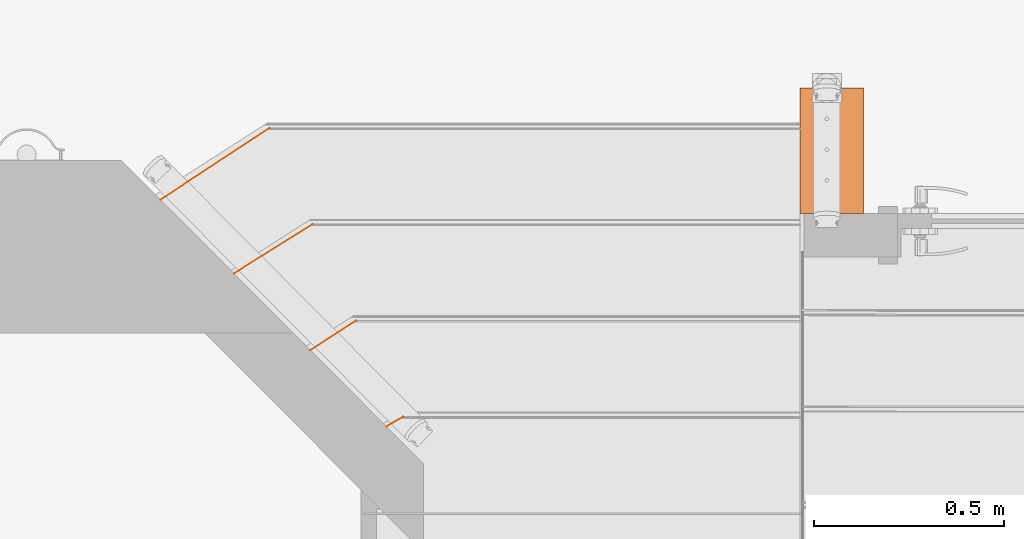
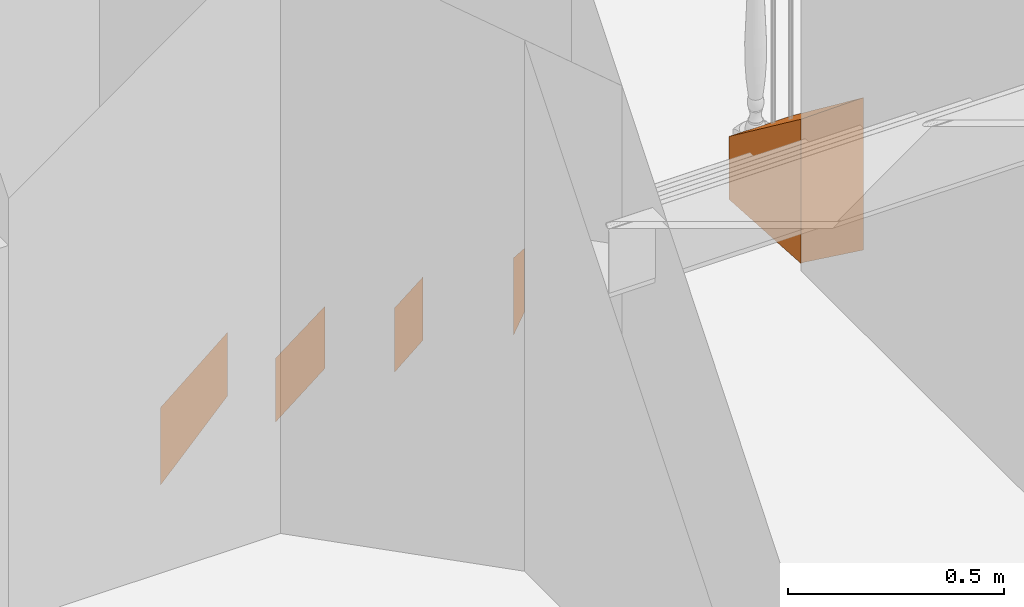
# One storey, part 22 of 24: 5 proxies.
"""IFC2X3 building model written with IfcOpenShell, lengths in inches."""

from ifc_helpers import new_model, entity, si_unit, converted_unit, derived_unit, money_unit, direction, frame, origin_with_axes, place, context, subcontext, project, spatial, open_shell, faceted_brep, surface_model, material, type_object, element, save


model = new_model("IFC2X3")

# Units and contexts
model_context = context("Model", 3, precision=0.000393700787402, world=origin_with_axes(), true_north=direction((0.0, 1.0)))
body_context = subcontext(model_context, "Body", "Model", "MODEL_VIEW")
ifc_project = project(units=[converted_unit("LENGTHUNIT", "INCH", entity("IfcPositiveLengthMeasure", 0.0254), si_unit("LENGTHUNIT", "METRE"), dimensions=[1, 0, 0, 0, 0, 0, 0]), converted_unit("AREAUNIT", "SQUARE_FOOT", entity("IfcPositiveLengthMeasure", 0.09290304), si_unit("AREAUNIT", "SQUARE_METRE"), dimensions=[2, 0, 0, 0, 0, 0, 0]), si_unit("PLANEANGLEUNIT", "RADIAN"), si_unit("SOLIDANGLEUNIT", "STERADIAN"), money_unit("USD"), converted_unit("TIMEUNIT", "Year", entity("IfcTimeMeasure", 31556926.0), si_unit("TIMEUNIT", "SECOND"), dimensions=[0, 0, 1, 0, 0, 0, 0]), si_unit("MASSUNIT", "GRAM", prefix="KILO"), si_unit("THERMODYNAMICTEMPERATUREUNIT", "DEGREE_CELSIUS"), si_unit("LUMINOUSINTENSITYUNIT", "LUMEN"), si_unit("ENERGYUNIT", "JOULE", prefix="MEGA"), derived_unit("THERMALCONDUCTANCEUNIT", [(si_unit("POWERUNIT", "WATT"), 1), (si_unit("LENGTHUNIT", "METRE"), -1), (si_unit("THERMODYNAMICTEMPERATUREUNIT", "KELVIN"), -1)]), derived_unit("SPECIFICHEATCAPACITYUNIT", [(si_unit("ENERGYUNIT", "JOULE"), 1), (si_unit("MASSUNIT", "GRAM", prefix="KILO"), -1), (si_unit("THERMODYNAMICTEMPERATUREUNIT", "KELVIN"), -1)]), derived_unit("MASSDENSITYUNIT", [(si_unit("MASSUNIT", "GRAM", prefix="KILO"), 1), (si_unit("VOLUMEUNIT", "CUBIC_METRE"), -1)])], contexts=[model_context])

# Site, building, storey
site_placement = place(None, origin_with_axes())
site = spatial("IfcSite", under=ifc_project, at=site_placement, Name="Site", CompositionType="ELEMENT")
building_placement = place(site_placement, origin_with_axes())
building = spatial("IfcBuilding", under=site, at=building_placement, Name="Building", CompositionType="ELEMENT")
storey_placement = place(building_placement, origin_with_axes())
storey = spatial("IfcBuildingStorey", under=building, at=storey_placement, Name="First Floor", CompositionType="ELEMENT", Elevation=0.0)

# Proxies
ifc_material_1 = material(Name="Generic - Structural")
building_element_proxy_type_1 = type_object("IfcBuildingElementProxyType", Name="Generic - Structural", PredefinedType="NOTDEFINED")
proxy_1_placement = place(storey_placement, frame((689.674629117, 157.970464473, 0.0), z_axis=(0.0, 0.0, 1.0), x_axis=(1.0, 0.0, 0.0)))
element("IfcBuildingElementProxy", 1, at=proxy_1_placement, inside=storey, type_object=building_element_proxy_type_1, material=ifc_material_1, Name="MO-02", context=body_context, shape_type="Brep", body=[
    faceted_brep([(-6.57133692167, -13.0632921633, 16.8291035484), (-6.57133692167, 0.0, 6.99871101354), (-6.57133692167, 0.0, 0.0), (-6.57133692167, -13.0632921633, 0.818910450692), (-6.25, -13.0632921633, 16.8291035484), (0.0, 0.0, 6.99871101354), (0.0, 0.0, 0.0), (-6.25, -13.0632921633, 0.818910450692), (0.0, -13.0632921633, 0.0), (0.0, -13.0632921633, 16.9409702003)], [[[0, 1, 2, 3]], [[1, 0, 4, 5]], [[2, 1, 5, 6]], [[3, 2, 6, 7]], [[0, 3, 7, 8, 4]], [[4, 9, 5]], [[9, 8, 6, 5]], [[8, 7, 6]], [[8, 9, 4]]]),
])
ifc_material_2 = material(Name="Generic - Exterior")
building_element_proxy_type_2 = type_object("IfcBuildingElementProxyType", Name="Generic - Exterior", PredefinedType="NOTDEFINED")
proxy_2_placement = place(storey_placement, frame((642.445540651, 126.551676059, 24.3873453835), z_axis=(0.0, 0.0, 1.0), x_axis=(0.964635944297, -0.26358583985, 0.0)))
element("IfcBuildingElementProxy", 2, at=proxy_2_placement, inside=storey, type_object=building_element_proxy_type_2, material=ifc_material_2, Name="MO-05", context=body_context, shape_type="SurfaceModel", body=[
    surface_model("IfcShellBasedSurfaceModel", [(0.194174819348, -2.81044433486, -1.71011468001), (-1.23253064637, -4.24292422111, -3.12024242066), (0.194174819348, -2.81044433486, 5.37121416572), (-1.23253064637, -4.24292422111, 5.5)], [open_shell([[[0, 1, 2]], [[1, 3, 2]]])]),
])
proxy_3_placement = place(storey_placement, frame((631.878993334, 133.664481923, 16.8234220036), z_axis=(0.0, 0.0, 1.0), x_axis=(1.0, 0.0, 0.0)))
element("IfcBuildingElementProxy", 3, at=proxy_3_placement, inside=storey, type_object=building_element_proxy_type_2, material=ifc_material_2, Name="MO-05", context=body_context, shape_type="SurfaceModel", body=[
    surface_model("IfcShellBasedSurfaceModel", [(5.1023057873, 0.124999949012, -1.66076431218), (0.35687862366, -2.97039637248, -1.64627814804), (5.1023057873, 0.124999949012, 5.37121416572), (0.35687862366, -2.97039637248, 5.5)], [open_shell([[[0, 1, 2]], [[1, 3, 2]]])]),
])
proxy_4_placement = place(storey_placement, frame((623.879407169, 153.88005013, 1.71011468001), z_axis=(0.0, 0.0, 1.0), x_axis=(1.0, 0.0, 0.0)))
element("IfcBuildingElementProxy", 4, at=proxy_4_placement, inside=storey, type_object=building_element_proxy_type_2, material=ifc_material_2, Name="MO-05", context=body_context, shape_type="SurfaceModel", body=[
    surface_model("IfcShellBasedSurfaceModel", [(-7.20932681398, -7.54559816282, -3.12024242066), (-7.20932681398, -7.54559816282, 5.5), (4.12901515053, -0.0905682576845, 5.37121416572), (4.12901515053, -0.0905682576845, -1.71011468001)], [open_shell([[[0, 1, 2]], [[3, 0, 2]]])]),
])
proxy_5_placement = place(storey_placement, frame((627.972567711, 143.539481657, 9.13024679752), z_axis=(0.0, 0.0, 1.0), x_axis=(1.0, 0.0, 0.0)))
element("IfcBuildingElementProxy", 5, at=proxy_5_placement, inside=storey, type_object=building_element_proxy_type_2, material=ifc_material_2, Name="MO-05", context=body_context, shape_type="SurfaceModel", body=[
    surface_model("IfcShellBasedSurfaceModel", [(-3.6745357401, -4.86352794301, -1.60754356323), (-3.6745357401, -4.86352794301, 5.5), (4.52229300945, 0.250000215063, 5.37121416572), (4.52229300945, 0.250000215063, -1.54891795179)], [open_shell([[[0, 1, 2]], [[3, 0, 2]]])]),
])

save(model, "model.ifc")
